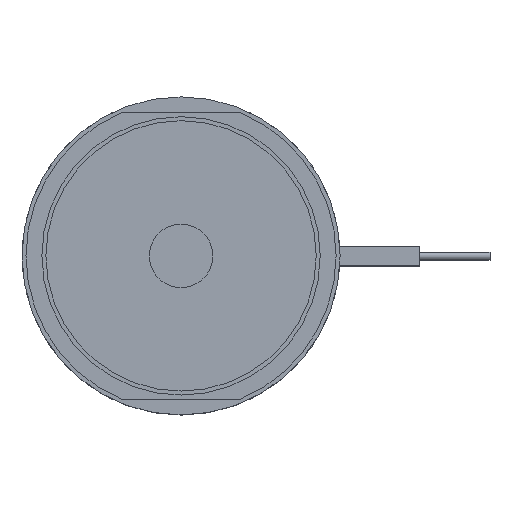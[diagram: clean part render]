
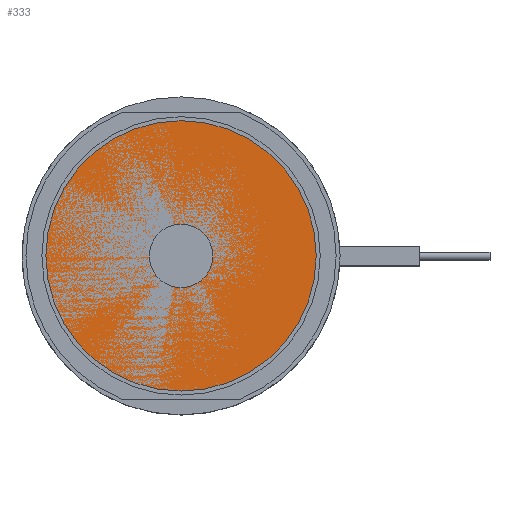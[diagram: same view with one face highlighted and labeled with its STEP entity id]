
A CAD part, top view. The second image highlights one B-rep face of the part: STEP entity #333.
In plain terms, the highlighted planar face has unit normal (0, 0, 1).
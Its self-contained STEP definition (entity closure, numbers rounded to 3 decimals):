
#215=PLANE('',#1120);
#262=FACE_OUTER_BOUND('',#507,.T.);
#333=ADVANCED_FACE('',(#262,#424),#215,.T.);
#424=FACE_BOUND('',#508,.T.);
#507=EDGE_LOOP('',(#674));
#508=EDGE_LOOP('',(#675));
#674=ORIENTED_EDGE('',*,*,#947,.T.);
#675=ORIENTED_EDGE('',*,*,#948,.F.);
#842=VERTEX_POINT('',#1732);
#843=VERTEX_POINT('',#1735);
#947=EDGE_CURVE('',#842,#842,#1021,.T.);
#948=EDGE_CURVE('',#843,#843,#1022,.T.);
#1021=CIRCLE('',#1117,17.);
#1022=CIRCLE('',#1119,4.);
#1117=AXIS2_PLACEMENT_3D('',#1731,#1350,#1351);
#1119=AXIS2_PLACEMENT_3D('',#1734,#1354,#1355);
#1120=AXIS2_PLACEMENT_3D('',#1736,#1356,#1357);
#1350=DIRECTION('',(0.,0.,1.));
#1351=DIRECTION('',(1.,0.,0.));
#1354=DIRECTION('',(0.,0.,1.));
#1355=DIRECTION('',(1.,0.,0.));
#1356=DIRECTION('',(0.,0.,1.));
#1357=DIRECTION('',(1.,0.,0.));
#1731=CARTESIAN_POINT('',(0.,0.,0.));
#1732=CARTESIAN_POINT('',(17.,0.,0.));
#1734=CARTESIAN_POINT('',(0.,0.,0.));
#1735=CARTESIAN_POINT('',(4.,0.,0.));
#1736=CARTESIAN_POINT('',(-4.,0.,0.));
